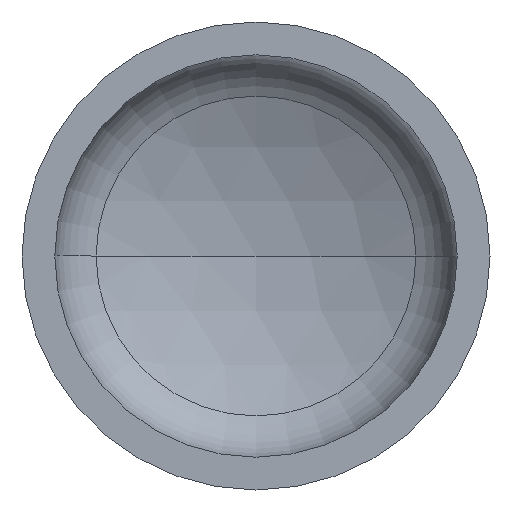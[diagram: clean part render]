
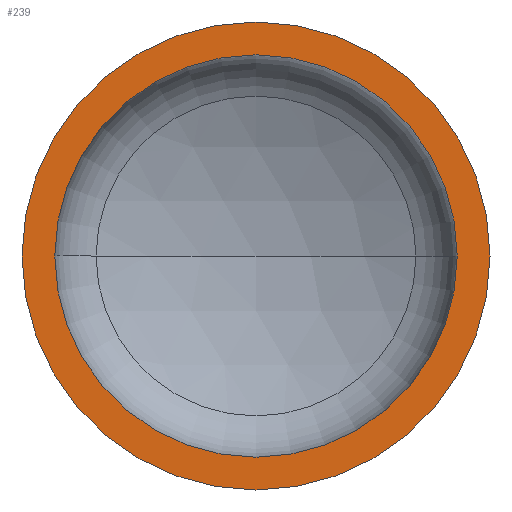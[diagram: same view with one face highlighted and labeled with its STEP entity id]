
A CAD part, front view. The second image highlights one B-rep face of the part: STEP entity #239.
In plain terms, the highlighted planar face has unit normal (0, -1, 0).
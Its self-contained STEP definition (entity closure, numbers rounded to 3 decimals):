
#6 = EDGE_LOOP ( 'NONE', ( #36, #89 ) ) ;
#12 = DIRECTION ( 'NONE',  ( 0., -1., 0. ) ) ;
#18 = CARTESIAN_POINT ( 'NONE',  ( 0., 0., 0. ) ) ;
#20 = DIRECTION ( 'NONE',  ( 0., 1., 0. ) ) ;
#30 = DIRECTION ( 'NONE',  ( 1., 0., 0. ) ) ;
#31 = DIRECTION ( 'NONE',  ( 1., 0., 0. ) ) ;
#36 = ORIENTED_EDGE ( 'NONE', *, *, #269, .T. ) ;
#40 = AXIS2_PLACEMENT_3D ( 'NONE', #163, #164, #166 ) ;
#43 = VERTEX_POINT ( 'NONE', #229 ) ;
#49 = EDGE_LOOP ( 'NONE', ( #100, #342 ) ) ;
#89 = ORIENTED_EDGE ( 'NONE', *, *, #198, .T. ) ;
#100 = ORIENTED_EDGE ( 'NONE', *, *, #236, .F. ) ;
#112 = VERTEX_POINT ( 'NONE', #340 ) ;
#113 = VERTEX_POINT ( 'NONE', #353 ) ;
#115 = VERTEX_POINT ( 'NONE', #345 ) ;
#119 = CARTESIAN_POINT ( 'NONE',  ( -600., 0., 0. ) ) ;
#153 = CARTESIAN_POINT ( 'NONE',  ( 0., 0., 0. ) ) ;
#156 = DIRECTION ( 'NONE',  ( 0., -1., 0. ) ) ;
#159 = DIRECTION ( 'NONE',  ( -1., 0., 0. ) ) ;
#160 = CIRCLE ( 'NONE', #312, 600. ) ;
#163 = CARTESIAN_POINT ( 'NONE',  ( 0., 0., 0. ) ) ;
#164 = DIRECTION ( 'NONE',  ( 0., -1., 0. ) ) ;
#166 = DIRECTION ( 'NONE',  ( 1., 0., 0. ) ) ;
#168 = CIRCLE ( 'NONE', #40, 600. ) ;
#180 = CIRCLE ( 'NONE', #211, 516. ) ;
#190 = PLANE ( 'NONE',  #259 ) ;
#198 = EDGE_CURVE ( 'NONE', #115, #43, #168, .T. ) ;
#211 = AXIS2_PLACEMENT_3D ( 'NONE', #404, #255, #30 ) ;
#218 = CIRCLE ( 'NONE', #277, 516. ) ;
#229 = CARTESIAN_POINT ( 'NONE',  ( 600., 0., 0. ) ) ;
#236 = EDGE_CURVE ( 'NONE', #112, #113, #180, .T. ) ;
#237 = FACE_BOUND ( 'NONE', #49, .T. ) ;
#239 = ADVANCED_FACE ( 'NONE', ( #237, #364 ), #190, .F. ) ;
#255 = DIRECTION ( 'NONE',  ( 0., -1., 0. ) ) ;
#259 = AXIS2_PLACEMENT_3D ( 'NONE', #119, #20, #159 ) ;
#265 = EDGE_CURVE ( 'NONE', #113, #112, #218, .T. ) ;
#269 = EDGE_CURVE ( 'NONE', #43, #115, #160, .T. ) ;
#277 = AXIS2_PLACEMENT_3D ( 'NONE', #18, #12, #31 ) ;
#312 = AXIS2_PLACEMENT_3D ( 'NONE', #153, #156, #377 ) ;
#340 = CARTESIAN_POINT ( 'NONE',  ( 516., 0., 0. ) ) ;
#342 = ORIENTED_EDGE ( 'NONE', *, *, #265, .F. ) ;
#345 = CARTESIAN_POINT ( 'NONE',  ( -600., 0., 0. ) ) ;
#353 = CARTESIAN_POINT ( 'NONE',  ( -516., 0., 0. ) ) ;
#364 = FACE_OUTER_BOUND ( 'NONE', #6, .T. ) ;
#377 = DIRECTION ( 'NONE',  ( 1., 0., 0. ) ) ;
#404 = CARTESIAN_POINT ( 'NONE',  ( 0., 0., 0. ) ) ;
